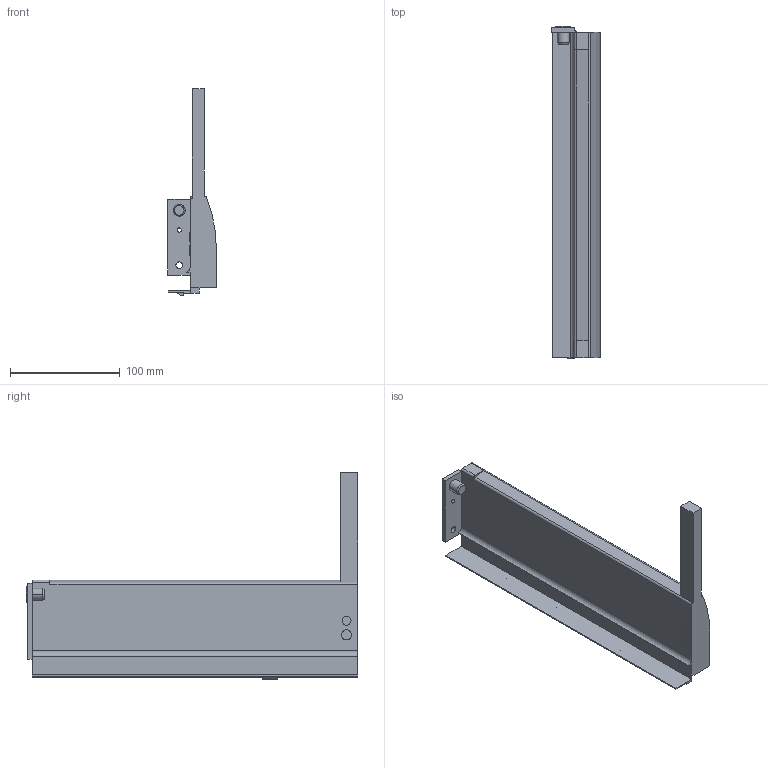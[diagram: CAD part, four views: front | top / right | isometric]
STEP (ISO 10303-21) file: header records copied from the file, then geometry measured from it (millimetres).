
FILE_DESCRIPTION (( 'STEP AP214' ), '1' );
FILE_NAME ('_IMOS_NOVA-Pro_Crystal_Dekor-H90_DL_NL300_RE.step', '2010-07-14T12:43:00', ( 'grass' ), ( '' ), 'SwSTEP 2.0', 'SolidWorks 2009', '' );
FILE_SCHEMA (( 'AUTOMOTIVE_DESIGN' ));
Length unit declared in the file: millimetre
Products named in the file (1): _IMOS_NOVA-Pro_Crystal_Dekor-H90_DL_NL300_RE
Bounding box: 44.3 x 302.7 x 188.49 mm (x, y, z)
Volume: 350542.3 mm3; surface area: 110681.7 mm2
Topology: 1 solids, 1 shells, 87 faces, 235 edges, 155 vertices
Faces by surface type: plane 55, cylinder 27, cone 4, bspline 1
Entity records: 2781 total; most frequent: CARTESIAN_POINT 499, ORIENTED_EDGE 470, DIRECTION 466, EDGE_CURVE 235, LINE 174, VECTOR 174, VERTEX_POINT 155, AXIS2_PLACEMENT_3D 146
